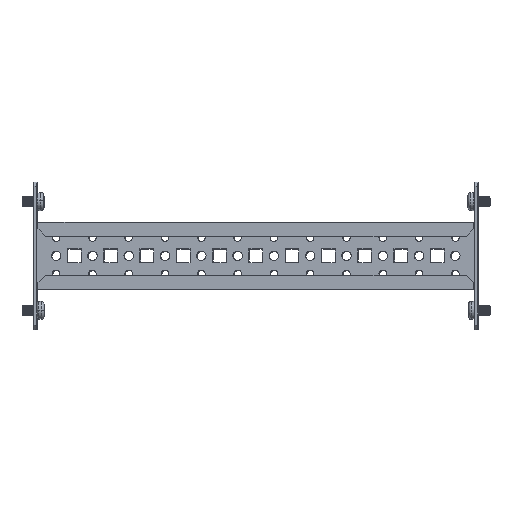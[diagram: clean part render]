
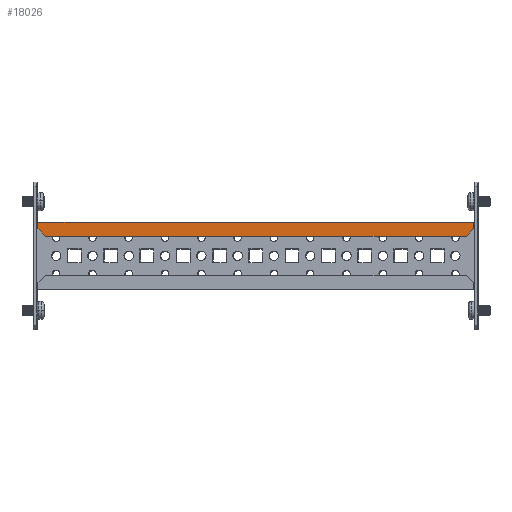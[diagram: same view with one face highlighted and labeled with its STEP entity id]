
A CAD part, front view. The second image highlights one B-rep face of the part: STEP entity #18026.
In plain terms, the highlighted planar face has unit normal (0, -1, 0) as drawn and (0, 1, 0) by its records, which use the part's own axes.
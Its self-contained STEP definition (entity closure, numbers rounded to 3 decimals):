
#502 = VECTOR ( 'NONE', #9683, 1000. ) ;
#571 = EDGE_CURVE ( 'NONE', #17048, #3853, #1804, .T. ) ;
#712 = CARTESIAN_POINT ( 'NONE',  ( 150., 34., -20. ) ) ;
#1224 = CARTESIAN_POINT ( 'NONE',  ( -145., 34., -13.5 ) ) ;
#1329 = CARTESIAN_POINT ( 'NONE',  ( -150., 34., 0. ) ) ;
#1625 = AXIS2_PLACEMENT_3D ( 'NONE', #11912, #8899, #12015 ) ;
#1804 = LINE ( 'NONE', #17844, #7033 ) ;
#1950 = ORIENTED_EDGE ( 'NONE', *, *, #6917, .T. ) ;
#2445 = EDGE_CURVE ( 'NONE', #5023, #17940, #17750, .T. ) ;
#2504 = ORIENTED_EDGE ( 'NONE', *, *, #9171, .T. ) ;
#2596 = ORIENTED_EDGE ( 'NONE', *, *, #9125, .T. ) ;
#2635 = VECTOR ( 'NONE', #13470, 1000. ) ;
#3427 = CARTESIAN_POINT ( 'NONE',  ( 150., 34., -18.5 ) ) ;
#3736 = VECTOR ( 'NONE', #8503, 1000. ) ;
#3754 = CARTESIAN_POINT ( 'NONE',  ( 0., 34., -23. ) ) ;
#3780 = EDGE_CURVE ( 'NONE', #6111, #12925, #6634, .T. ) ;
#3853 = VERTEX_POINT ( 'NONE', #18230 ) ;
#3864 = CARTESIAN_POINT ( 'NONE',  ( -150., 34., -18.5 ) ) ;
#4389 = LINE ( 'NONE', #6121, #3736 ) ;
#4484 = DIRECTION ( 'NONE',  ( 0.707, 0., 0.707 ) ) ;
#4928 = ORIENTED_EDGE ( 'NONE', *, *, #3780, .T. ) ;
#5023 = VERTEX_POINT ( 'NONE', #10566 ) ;
#6111 = VERTEX_POINT ( 'NONE', #8009 ) ;
#6121 = CARTESIAN_POINT ( 'NONE',  ( 150., 34., 0. ) ) ;
#6252 = DIRECTION ( 'NONE',  ( 0.707, 0., -0.707 ) ) ;
#6634 = LINE ( 'NONE', #16863, #18614 ) ;
#6917 = EDGE_CURVE ( 'NONE', #18549, #6111, #17228, .T. ) ;
#7033 = VECTOR ( 'NONE', #15029, 1000. ) ;
#8009 = CARTESIAN_POINT ( 'NONE',  ( 145., 34., -13.5 ) ) ;
#8503 = DIRECTION ( 'NONE',  ( 0., 0., -1. ) ) ;
#8899 = DIRECTION ( 'NONE',  ( 0., -1., 0. ) ) ;
#9125 = EDGE_CURVE ( 'NONE', #12925, #17048, #4389, .T. ) ;
#9171 = EDGE_CURVE ( 'NONE', #10911, #18549, #17812, .T. ) ;
#9683 = DIRECTION ( 'NONE',  ( -1., 0., 0. ) ) ;
#9784 = CARTESIAN_POINT ( 'NONE',  ( -150., 34., -23. ) ) ;
#10008 = DIRECTION ( 'NONE',  ( 1., 0., 0. ) ) ;
#10113 = ORIENTED_EDGE ( 'NONE', *, *, #571, .T. ) ;
#10566 = CARTESIAN_POINT ( 'NONE',  ( -150., 34., -20. ) ) ;
#10911 = VERTEX_POINT ( 'NONE', #3864 ) ;
#11474 = ORIENTED_EDGE ( 'NONE', *, *, #2445, .F. ) ;
#11892 = EDGE_LOOP ( 'NONE', ( #1950, #4928, #2596, #10113, #17258, #11474, #16660, #2504 ) ) ;
#11912 = CARTESIAN_POINT ( 'NONE',  ( 0., 34., 0. ) ) ;
#12015 = DIRECTION ( 'NONE',  ( -1., 0., 0. ) ) ;
#12213 = VECTOR ( 'NONE', #10008, 1000. ) ;
#12300 = VECTOR ( 'NONE', #13998, 1000. ) ;
#12650 = EDGE_CURVE ( 'NONE', #3853, #17940, #17077, .T. ) ;
#12813 = FACE_OUTER_BOUND ( 'NONE', #11892, .T. ) ;
#12925 = VERTEX_POINT ( 'NONE', #3427 ) ;
#13470 = DIRECTION ( 'NONE',  ( 0., 0., -1. ) ) ;
#13998 = DIRECTION ( 'NONE',  ( 0., 0., 1. ) ) ;
#14931 = CARTESIAN_POINT ( 'NONE',  ( -150., 34., 0. ) ) ;
#15029 = DIRECTION ( 'NONE',  ( 0., 0., -1. ) ) ;
#15128 = EDGE_CURVE ( 'NONE', #5023, #10911, #16894, .T. ) ;
#15667 = CARTESIAN_POINT ( 'NONE',  ( 0., 34., -13.5 ) ) ;
#16542 = CARTESIAN_POINT ( 'NONE',  ( -145., 34., -13.5 ) ) ;
#16660 = ORIENTED_EDGE ( 'NONE', *, *, #15128, .T. ) ;
#16863 = CARTESIAN_POINT ( 'NONE',  ( 150., 34., -18.5 ) ) ;
#16894 = LINE ( 'NONE', #1329, #12300 ) ;
#17048 = VERTEX_POINT ( 'NONE', #712 ) ;
#17049 = VECTOR ( 'NONE', #4484, 1000. ) ;
#17077 = LINE ( 'NONE', #3754, #502 ) ;
#17228 = LINE ( 'NONE', #15667, #12213 ) ;
#17258 = ORIENTED_EDGE ( 'NONE', *, *, #12650, .T. ) ;
#17750 = LINE ( 'NONE', #14931, #2635 ) ;
#17812 = LINE ( 'NONE', #16542, #17049 ) ;
#17844 = CARTESIAN_POINT ( 'NONE',  ( 150., 34., -20. ) ) ;
#17940 = VERTEX_POINT ( 'NONE', #9784 ) ;
#18026 = ADVANCED_FACE ( 'NONE', ( #12813 ), #18744, .F. ) ;
#18230 = CARTESIAN_POINT ( 'NONE',  ( 150., 34., -23. ) ) ;
#18549 = VERTEX_POINT ( 'NONE', #1224 ) ;
#18614 = VECTOR ( 'NONE', #6252, 1000. ) ;
#18744 = PLANE ( 'NONE',  #1625 ) ;
